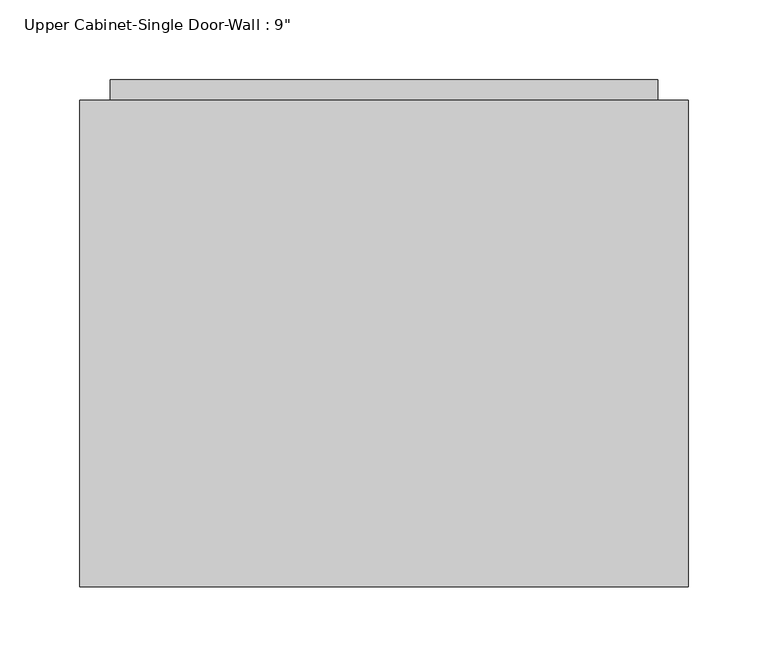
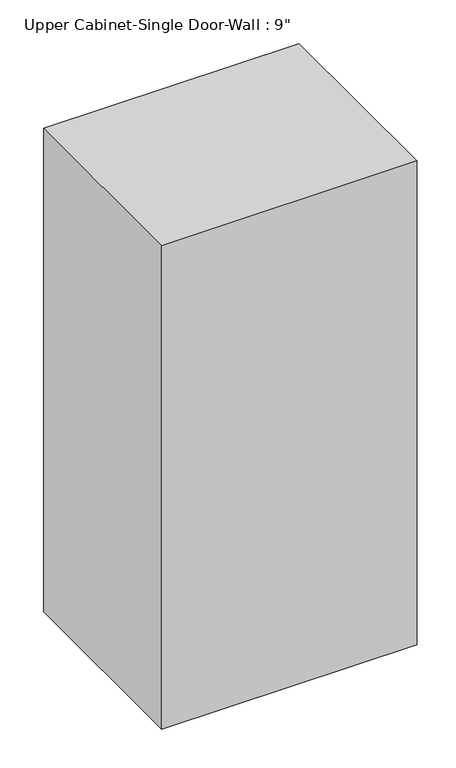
"""IFC4 building model written with IfcOpenShell, lengths in millimetres: furniture geometry."""

from ifc_helpers import new_model, si_unit, frame, origin, place, context, project, spatial, polyline, outline, extrude, faceted_brep, source, transform, mapped, element, save


def furniture_b6349292(model_context):
    return source(origin(), model_context, "Body", "SolidModel", [
        faceted_brep([(-122.6288372, 82.55, 2133.6), (-122.6288372, 82.55, 1371.6), (258.3711628, 82.55, 1371.6), (258.3711628, 82.55, 2133.6), (-122.6288372, 387.35, 2133.6), (258.3711628, 387.35, 2133.6), (258.3711628, 387.35, 1371.6), (-122.6288372, 387.35, 1371.6), (-103.5788372, 387.35, 2114.55), (-103.5788372, 387.35, 1390.65), (239.3211628, 387.35, 1390.65), (239.3211628, 387.35, 2114.55), (239.3211628, 101.6, 2114.55), (-103.5788372, 101.6, 2114.55), (239.3211628, 101.6, 1390.65), (-103.5788372, 101.6, 1390.65)], [[[0, 1, 2, 3]], [[4, 5, 6, 7], [8, 9, 10, 11]], [[1, 0, 4, 7]], [[2, 1, 7, 6]], [[3, 2, 6, 5]], [[0, 3, 5, 4]], [[8, 11, 12, 13]], [[11, 10, 14, 12]], [[10, 9, 15, 14]], [[9, 8, 13, 15]], [[13, 12, 14, 15]]]),
        extrude(outline(polyline([(-103.5788372, 400.05), (239.3211628, 400.05), (239.3211628, 368.3), (-103.5788372, 368.3), (-103.5788372, 400.05)])), frame((0.0, 0.0, 1390.65), z_axis=(0.0, 0.0, 1.0), x_axis=(1.0, 0.0, 0.0)), (0.0, 0.0, 1.0), 723.9),
    ])


if __name__ == "__main__":
    model = new_model("IFC4")
    model_context = context("Model", 3, world=origin())
    ifc_project = project(units=[si_unit("LENGTHUNIT", "METRE", prefix="MILLI")], contexts=[model_context])
    site = spatial("IfcSite", under=ifc_project)
    building = spatial("IfcBuilding", under=site)
    placement = place(None, origin())
    furniture_shape = furniture_b6349292(model_context)
    element("IfcFurniture", 1, ObjectType="Upper Cabinet-Single Door-Wall : 9\"", at=placement, inside=building, context=model_context, shape_type="MappedRepresentation", body=[
        mapped(furniture_shape, transform((0.0, 0.0, 0.0), x_axis=(1.0, 0.0, 0.0), y_axis=(0.0, 1.0, 0.0), z_axis=(0.0, 0.0, 1.0))),
    ])
    save(model, "model.ifc")
